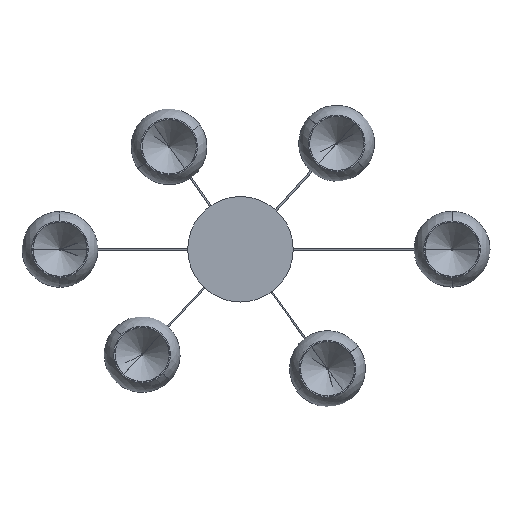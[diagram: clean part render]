
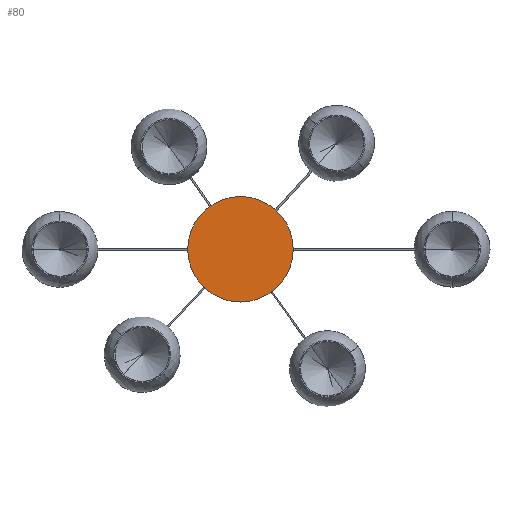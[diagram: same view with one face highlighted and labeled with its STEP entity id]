
A CAD part, front view. The second image highlights one B-rep face of the part: STEP entity #80.
In plain terms, the highlighted planar face has unit normal (0, -1, 0).
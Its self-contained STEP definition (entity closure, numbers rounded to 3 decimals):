
#80 = ADVANCED_FACE ( 'NONE', ( #3183 ), #1795, .T. ) ;
#148 = CARTESIAN_POINT ( 'NONE',  ( 125., -17., 0. ) ) ;
#207 = CARTESIAN_POINT ( 'NONE',  ( 0., -17., -125. ) ) ;
#689 = VERTEX_POINT ( 'NONE', #2759 ) ;
#898 = CIRCLE ( 'NONE', #4103, 125. ) ;
#953 = EDGE_CURVE ( 'NONE', #689, #2224, #2191, .T. ) ;
#1095 = DIRECTION ( 'NONE',  ( 0., 0., -1. ) ) ;
#1748 = DIRECTION ( 'NONE',  ( 0., -1., 0. ) ) ;
#1759 = ORIENTED_EDGE ( 'NONE', *, *, #2959, .T. ) ;
#1795 = PLANE ( 'NONE',  #4257 ) ;
#1967 = AXIS2_PLACEMENT_3D ( 'NONE', #2682, #4290, #2284 ) ;
#2191 = CIRCLE ( 'NONE', #1967, 125. ) ;
#2213 = EDGE_LOOP ( 'NONE', ( #1759, #2526 ) ) ;
#2224 = VERTEX_POINT ( 'NONE', #207 ) ;
#2284 = DIRECTION ( 'NONE',  ( 0., 0., -1. ) ) ;
#2512 = DIRECTION ( 'NONE',  ( 0., 0., -1. ) ) ;
#2526 = ORIENTED_EDGE ( 'NONE', *, *, #953, .T. ) ;
#2682 = CARTESIAN_POINT ( 'NONE',  ( 0., -17., 0. ) ) ;
#2759 = CARTESIAN_POINT ( 'NONE',  ( 0., -17., 125. ) ) ;
#2776 = CARTESIAN_POINT ( 'NONE',  ( 0., -17., 0. ) ) ;
#2959 = EDGE_CURVE ( 'NONE', #2224, #689, #898, .T. ) ;
#3183 = FACE_OUTER_BOUND ( 'NONE', #2213, .T. ) ;
#3794 = DIRECTION ( 'NONE',  ( 0., -1., 0. ) ) ;
#4103 = AXIS2_PLACEMENT_3D ( 'NONE', #2776, #1748, #1095 ) ;
#4257 = AXIS2_PLACEMENT_3D ( 'NONE', #148, #3794, #2512 ) ;
#4290 = DIRECTION ( 'NONE',  ( 0., -1., 0. ) ) ;
